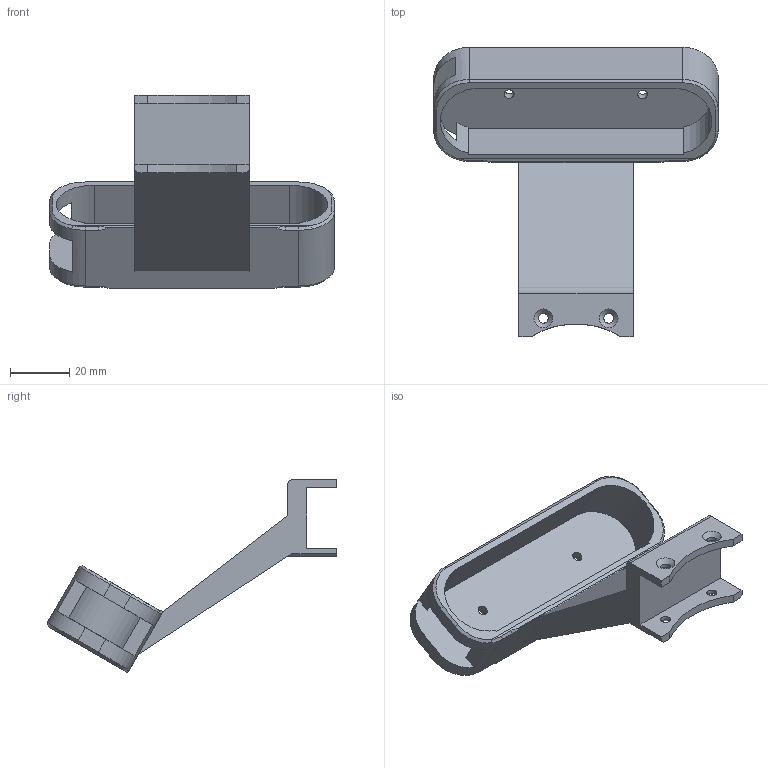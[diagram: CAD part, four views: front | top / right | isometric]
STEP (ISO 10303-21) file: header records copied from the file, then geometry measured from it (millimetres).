
FILE_DESCRIPTION(/* description */ (''),/* implementation_level */ '2;1');
FILE_NAME(/* name */ '',/* time_stamp */ '2026-09-17T15:19:19+08:00',/* author */ (''),/* organization */ (''),/* preprocessor_version */ 'ST-DEVELOPER v20.1',/* originating_system */ 'Autodesk Translation Framework v15.8.0.0',/* authorisation */ '');
FILE_SCHEMA (('AUTOMOTIVE_DESIGN { 1 0 10303 214 3 1 1 }'));
Length unit declared in the file: millimetre
Products named in the file (2): 2026-09-16-11-33-49-521; 2026-09-16-12-21-22-263
Assembly tree (2 placements, depth 1):
  2026-09-16-11-33-49-521
Bounding box: 95.76 x 97.43 x 65 mm (x, y, z)
Volume: 57141.2 mm3; surface area: 24360.6 mm2
Topology: 2 solids, 2 shells, 85 faces, 220 edges, 140 vertices
Faces by surface type: plane 45, cylinder 18, cone 16, bspline 6
Full cylindrical faces by diameter (mm): 3.3 x6, 5.8 x2
Entity records: 3004 total; most frequent: CARTESIAN_POINT 836, ORIENTED_EDGE 440, DIRECTION 420, EDGE_CURVE 220, LINE 146, VECTOR 146, VERTEX_POINT 140, AXIS2_PLACEMENT_3D 137
